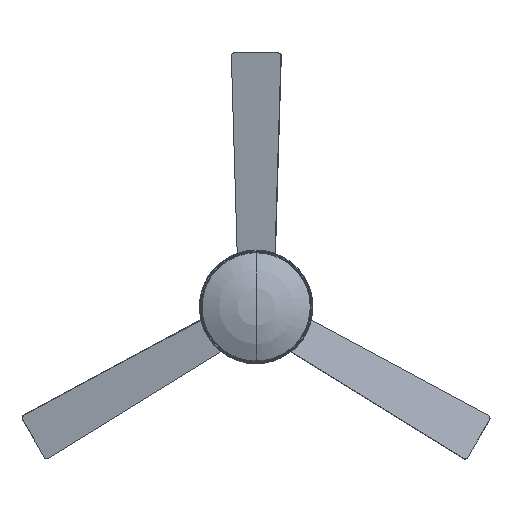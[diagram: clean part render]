
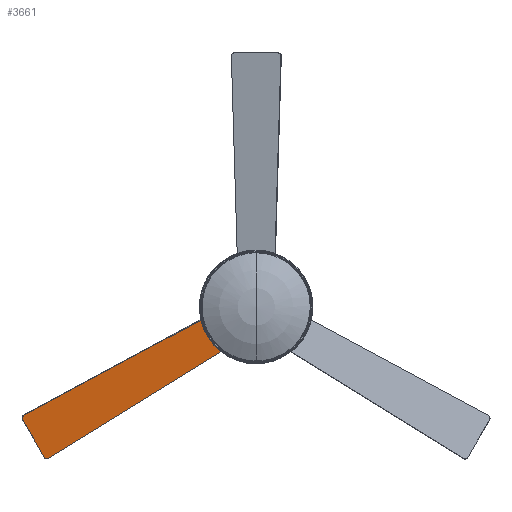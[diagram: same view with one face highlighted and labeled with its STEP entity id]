
A CAD part, top view. The second image highlights one B-rep face of the part: STEP entity #3661.
In plain terms, the highlighted planar face has unit normal (0.104, -0.18, 0.978).
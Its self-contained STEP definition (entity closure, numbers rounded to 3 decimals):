
#287=FACE_BOUND('',#836,.T.);
#288=FACE_BOUND('',#837,.T.);
#289=FACE_BOUND('',#838,.T.);
#330=CIRCLE('',#3903,14.);
#332=CIRCLE('',#3906,51.5);
#334=CIRCLE('',#3909,14.);
#336=CIRCLE('',#3913,8.);
#338=CIRCLE('',#3917,8.);
#340=CIRCLE('',#3920,2.5);
#342=CIRCLE('',#3923,2.5);
#344=CIRCLE('',#3926,2.5);
#346=CIRCLE('',#3929,2.5);
#350=CIRCLE('',#3935,2.5);
#351=CIRCLE('',#3937,2.5);
#602=FACE_OUTER_BOUND('',#835,.T.);
#835=EDGE_LOOP('',(#2557,#2558,#2559,#2560,#2561,#2562,#2563,#2564));
#836=EDGE_LOOP('',(#2565,#2566));
#837=EDGE_LOOP('',(#2567,#2568));
#838=EDGE_LOOP('',(#2569,#2570));
#1069=LINE('',#5335,#1279);
#1076=LINE('',#5361,#1286);
#1080=LINE('',#5373,#1290);
#1279=VECTOR('',#4354,304.8);
#1286=VECTOR('',#4381,304.8);
#1290=VECTOR('',#4393,304.8);
#1497=VERTEX_POINT('',#5333);
#1498=VERTEX_POINT('',#5334);
#1501=VERTEX_POINT('',#5342);
#1503=VERTEX_POINT('',#5348);
#1505=VERTEX_POINT('',#5354);
#1507=VERTEX_POINT('',#5360);
#1509=VERTEX_POINT('',#5366);
#1511=VERTEX_POINT('',#5372);
#1513=VERTEX_POINT('',#5381);
#1514=VERTEX_POINT('',#5382);
#1517=VERTEX_POINT('',#5393);
#1518=VERTEX_POINT('',#5394);
#1523=VERTEX_POINT('',#5410);
#1524=VERTEX_POINT('',#5411);
#1871=EDGE_CURVE('',#1497,#1498,#1069,.T.);
#1875=EDGE_CURVE('',#1501,#1497,#330,.T.);
#1878=EDGE_CURVE('',#1503,#1501,#332,.T.);
#1881=EDGE_CURVE('',#1505,#1503,#334,.T.);
#1884=EDGE_CURVE('',#1507,#1505,#1076,.T.);
#1887=EDGE_CURVE('',#1509,#1507,#336,.T.);
#1890=EDGE_CURVE('',#1511,#1509,#1080,.T.);
#1893=EDGE_CURVE('',#1498,#1511,#338,.T.);
#1895=EDGE_CURVE('',#1513,#1514,#340,.T.);
#1899=EDGE_CURVE('',#1514,#1513,#342,.T.);
#1901=EDGE_CURVE('',#1517,#1518,#344,.T.);
#1905=EDGE_CURVE('',#1518,#1517,#346,.T.);
#1909=EDGE_CURVE('',#1523,#1524,#350,.T.);
#1912=EDGE_CURVE('',#1524,#1523,#351,.T.);
#2557=ORIENTED_EDGE('',*,*,#1893,.T.);
#2558=ORIENTED_EDGE('',*,*,#1890,.T.);
#2559=ORIENTED_EDGE('',*,*,#1887,.T.);
#2560=ORIENTED_EDGE('',*,*,#1884,.T.);
#2561=ORIENTED_EDGE('',*,*,#1881,.T.);
#2562=ORIENTED_EDGE('',*,*,#1878,.T.);
#2563=ORIENTED_EDGE('',*,*,#1875,.T.);
#2564=ORIENTED_EDGE('',*,*,#1871,.T.);
#2565=ORIENTED_EDGE('',*,*,#1905,.T.);
#2566=ORIENTED_EDGE('',*,*,#1901,.T.);
#2567=ORIENTED_EDGE('',*,*,#1899,.T.);
#2568=ORIENTED_EDGE('',*,*,#1895,.T.);
#2569=ORIENTED_EDGE('',*,*,#1912,.T.);
#2570=ORIENTED_EDGE('',*,*,#1909,.T.);
#3560=PLANE('',#3938);
#3661=ADVANCED_FACE('',(#602,#287,#288,#289),#3560,.F.);
#3903=AXIS2_PLACEMENT_3D('',#5343,#4360,#4361);
#3906=AXIS2_PLACEMENT_3D('',#5349,#4367,#4368);
#3909=AXIS2_PLACEMENT_3D('',#5355,#4374,#4375);
#3913=AXIS2_PLACEMENT_3D('',#5367,#4386,#4387);
#3917=AXIS2_PLACEMENT_3D('',#5378,#4398,#4399);
#3920=AXIS2_PLACEMENT_3D('',#5383,#4404,#4405);
#3923=AXIS2_PLACEMENT_3D('',#5390,#4412,#4413);
#3926=AXIS2_PLACEMENT_3D('',#5395,#4418,#4419);
#3929=AXIS2_PLACEMENT_3D('',#5402,#4426,#4427);
#3935=AXIS2_PLACEMENT_3D('',#5412,#4438,#4439);
#3937=AXIS2_PLACEMENT_3D('',#5416,#4444,#4445);
#3938=AXIS2_PLACEMENT_3D('',#5417,#4446,#4447);
#4354=DIRECTION('',(-0.88,-0.474,0.006));
#4360=DIRECTION('center_axis',(0.104,-0.18,0.978));
#4361=DIRECTION('ref_axis',(-0.866,-0.5,0.));
#4367=DIRECTION('center_axis',(-0.104,0.18,-0.978));
#4368=DIRECTION('ref_axis',(-0.866,-0.5,0.));
#4374=DIRECTION('center_axis',(0.104,-0.18,0.978));
#4375=DIRECTION('ref_axis',(-0.866,-0.5,0.));
#4381=DIRECTION('',(0.851,0.525,0.006));
#4386=DIRECTION('center_axis',(0.104,-0.18,0.978));
#4387=DIRECTION('ref_axis',(-0.866,-0.5,0.));
#4393=DIRECTION('',(0.489,-0.847,-0.208));
#4398=DIRECTION('center_axis',(0.104,-0.18,0.978));
#4399=DIRECTION('ref_axis',(-0.866,-0.5,0.));
#4404=DIRECTION('center_axis',(-0.104,0.18,-0.978));
#4405=DIRECTION('ref_axis',(-0.866,-0.5,0.));
#4412=DIRECTION('center_axis',(-0.104,0.18,-0.978));
#4413=DIRECTION('ref_axis',(-0.866,-0.5,0.));
#4418=DIRECTION('center_axis',(-0.104,0.18,-0.978));
#4419=DIRECTION('ref_axis',(-0.866,-0.5,0.));
#4426=DIRECTION('center_axis',(-0.104,0.18,-0.978));
#4427=DIRECTION('ref_axis',(-0.866,-0.5,0.));
#4438=DIRECTION('center_axis',(-0.104,0.18,-0.978));
#4439=DIRECTION('ref_axis',(-0.866,-0.5,0.));
#4444=DIRECTION('center_axis',(-0.104,0.18,-0.978));
#4445=DIRECTION('ref_axis',(-0.866,-0.5,0.));
#4446=DIRECTION('center_axis',(-0.104,0.18,-0.978));
#4447=DIRECTION('ref_axis',(-0.866,-0.5,0.));
#5333=CARTESIAN_POINT('',(-72.049,3.987,245.772));
#5334=CARTESIAN_POINT('',(-596.295,-278.355,249.514));
#5335=CARTESIAN_POINT('',(-72.049,3.987,245.772));
#5342=CARTESIAN_POINT('',(-51.649,-8.008,241.396));
#5343=CARTESIAN_POINT('Origin',(-65.572,-8.078,242.862));
#5348=CARTESIAN_POINT('',(-26.264,-51.975,230.604));
#5349=CARTESIAN_POINT('Origin',(-0.433,-7.75,236.));
#5354=CARTESIAN_POINT('',(-26.076,-75.64,226.228));
#5355=CARTESIAN_POINT('Origin',(-33.287,-63.998,229.138));
#5360=CARTESIAN_POINT('',(-532.715,-388.479,222.486));
#5361=CARTESIAN_POINT('',(-532.715,-388.479,222.486));
#5366=CARTESIAN_POINT('',(-543.763,-385.826,224.148));
#5367=CARTESIAN_POINT('Origin',(-536.835,-381.826,224.148));
#5372=CARTESIAN_POINT('',(-599.521,-289.25,247.852));
#5373=CARTESIAN_POINT('',(-599.521,-289.25,247.852));
#5378=CARTESIAN_POINT('Origin',(-592.593,-285.25,247.852));
#5381=CARTESIAN_POINT('',(-51.024,-57.289,232.258));
#5382=CARTESIAN_POINT('',(-46.694,-54.789,232.258));
#5383=CARTESIAN_POINT('Origin',(-48.859,-56.039,232.258));
#5390=CARTESIAN_POINT('Origin',(-48.859,-56.039,232.258));
#5393=CARTESIAN_POINT('',(-68.631,-26.794,239.742));
#5394=CARTESIAN_POINT('',(-64.301,-24.294,239.742));
#5395=CARTESIAN_POINT('Origin',(-66.466,-25.544,239.742));
#5402=CARTESIAN_POINT('Origin',(-66.466,-25.544,239.742));
#5410=CARTESIAN_POINT('',(-54.56,-39.,236.));
#5411=CARTESIAN_POINT('',(-50.229,-36.5,236.));
#5412=CARTESIAN_POINT('Origin',(-52.395,-37.75,236.));
#5416=CARTESIAN_POINT('Origin',(-52.395,-37.75,236.));
#5417=CARTESIAN_POINT('Origin',(-0.433,-7.75,236.));
